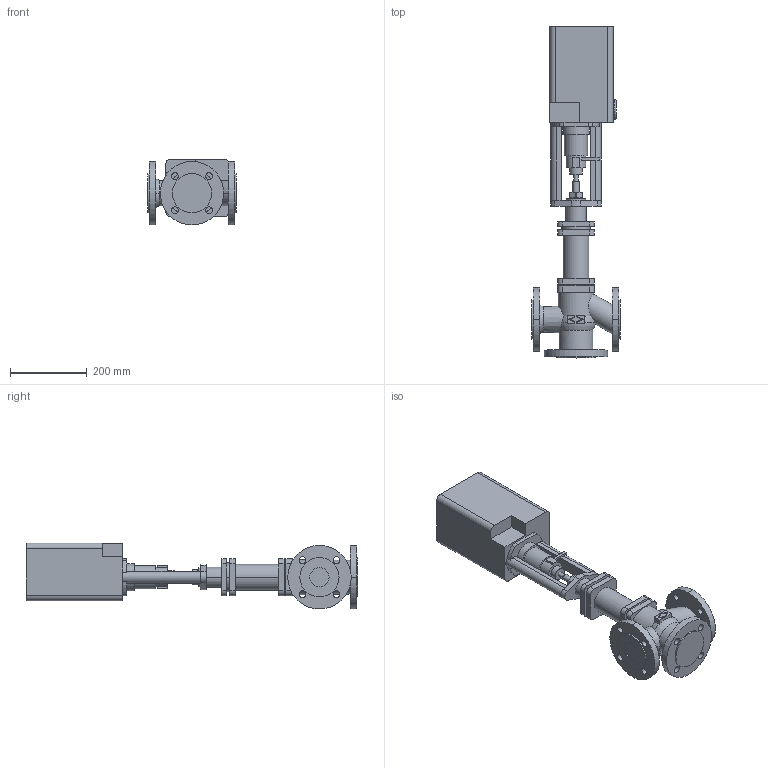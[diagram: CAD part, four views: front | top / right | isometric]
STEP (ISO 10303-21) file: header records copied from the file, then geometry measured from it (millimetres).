
FILE_DESCRIPTION(('OneSpaceDesigner STEP Export'),'2;1');
FILE_NAME('c000000419.stp','2006-09-21T11:37:01',(''),(''),'OneSpace Designer STEP processor for AP214 (Solid Model)','OneSpace Designer 13.20A 18-Aug-2005 (C) CoCreate Software GmbH','');
FILE_SCHEMA(('AUTOMOTIVE_DESIGN { 1 0 10303 214 1 1 1 1 }'));
Length unit declared in the file: millimetre
Products named in the file (2): 1; 2
Bounding box: 230 x 862.5 x 171.5 mm (x, y, z)
Volume: 10453926 mm3; surface area: 594499.2 mm2
Topology: 2 solids, 2 shells, 238 faces, 606 edges, 402 vertices
Faces by surface type: plane 114, cylinder 112, torus 8, cone 4
Entity records: 6946 total; most frequent: CARTESIAN_POINT 1386, ORIENTED_EDGE 1212, DIRECTION 1065, EDGE_CURVE 606, VERTEX_POINT 402, AXIS2_PLACEMENT_3D 369, VECTOR 327, LINE 327
